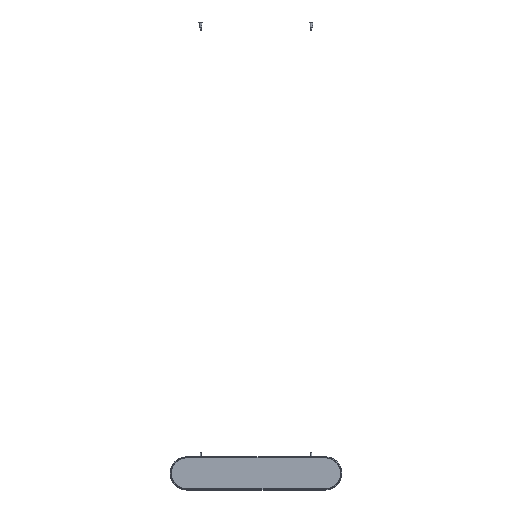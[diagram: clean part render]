
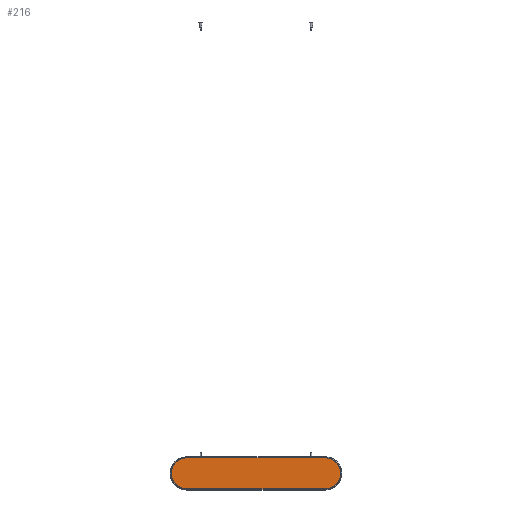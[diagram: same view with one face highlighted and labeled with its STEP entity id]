
A CAD part, front view. The second image highlights one B-rep face of the part: STEP entity #216.
In plain terms, the highlighted planar face has unit normal (0, -1, 0).
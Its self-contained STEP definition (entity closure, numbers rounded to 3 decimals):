
#216=ADVANCED_FACE('',(#389),#2393,.T.);
#389=FACE_OUTER_BOUND('',#562,.T.);
#562=EDGE_LOOP('',(#798,#799,#800,#801));
#798=ORIENTED_EDGE('',*,*,#1480,.F.);
#799=ORIENTED_EDGE('',*,*,#1476,.F.);
#800=ORIENTED_EDGE('',*,*,#1473,.T.);
#801=ORIENTED_EDGE('',*,*,#1469,.F.);
#1469=EDGE_CURVE('',#2177,#2178,#1939,.T.);
#1473=EDGE_CURVE('',#2181,#2178,#1823,.T.);
#1476=EDGE_CURVE('',#2181,#2183,#1941,.T.);
#1480=EDGE_CURVE('',#2183,#2177,#1828,.T.);
#1823=B_SPLINE_CURVE_WITH_KNOTS('',1,(#2999,#3000),.UNSPECIFIED.,.F.,.F.,
(2,2),(-649.6,0.),.UNSPECIFIED.);
#1828=B_SPLINE_CURVE_WITH_KNOTS('',1,(#3019,#3020),.UNSPECIFIED.,.F.,.F.,
(2,2),(-649.6,0.),.UNSPECIFIED.);
#1939=(
BOUNDED_CURVE()
B_SPLINE_CURVE(2,(#2985,#2986,#2987,#2988,#2989),.UNSPECIFIED.,.F.,.F.)
B_SPLINE_CURVE_WITH_KNOTS((3,2,3),(0.,117.653,235.305),
 .UNSPECIFIED.)
CURVE()
GEOMETRIC_REPRESENTATION_ITEM()
RATIONAL_B_SPLINE_CURVE((1.,0.707,1.,0.707,1.))
REPRESENTATION_ITEM('')
);
#1941=(
BOUNDED_CURVE()
B_SPLINE_CURVE(2,(#3005,#3006,#3007,#3008,#3009),.UNSPECIFIED.,.F.,.F.)
B_SPLINE_CURVE_WITH_KNOTS((3,2,3),(0.,117.653,235.305),
 .UNSPECIFIED.)
CURVE()
GEOMETRIC_REPRESENTATION_ITEM()
RATIONAL_B_SPLINE_CURVE((1.,0.707,1.,0.707,1.))
REPRESENTATION_ITEM('')
);
#2177=VERTEX_POINT('',#2977);
#2178=VERTEX_POINT('',#2978);
#2181=VERTEX_POINT('',#2981);
#2183=VERTEX_POINT('',#2983);
#2393=PLANE('',#2672);
#2672=AXIS2_PLACEMENT_3D('',#2976,#2764,$);
#2764=DIRECTION('',(0.,-1.,0.));
#2976=CARTESIAN_POINT('',(-479.64,-1.5,-89.88));
#2977=CARTESIAN_POINT('',(-324.8,-1.5,-74.9));
#2978=CARTESIAN_POINT('',(-324.8,-1.5,74.9));
#2981=CARTESIAN_POINT('',(324.8,-1.5,74.9));
#2983=CARTESIAN_POINT('',(324.8,-1.5,-74.9));
#2985=CARTESIAN_POINT('',(-324.8,-1.5,-74.9));
#2986=CARTESIAN_POINT('',(-399.7,-1.5,-74.9));
#2987=CARTESIAN_POINT('',(-399.7,-1.5,0.));
#2988=CARTESIAN_POINT('',(-399.7,-1.5,74.9));
#2989=CARTESIAN_POINT('',(-324.8,-1.5,74.9));
#2999=CARTESIAN_POINT('',(324.8,-1.5,74.9));
#3000=CARTESIAN_POINT('',(-324.8,-1.5,74.9));
#3005=CARTESIAN_POINT('',(324.8,-1.5,74.9));
#3006=CARTESIAN_POINT('',(399.7,-1.5,74.9));
#3007=CARTESIAN_POINT('',(399.7,-1.5,0.));
#3008=CARTESIAN_POINT('',(399.7,-1.5,-74.9));
#3009=CARTESIAN_POINT('',(324.8,-1.5,-74.9));
#3019=CARTESIAN_POINT('',(324.8,-1.5,-74.9));
#3020=CARTESIAN_POINT('',(-324.8,-1.5,-74.9));
